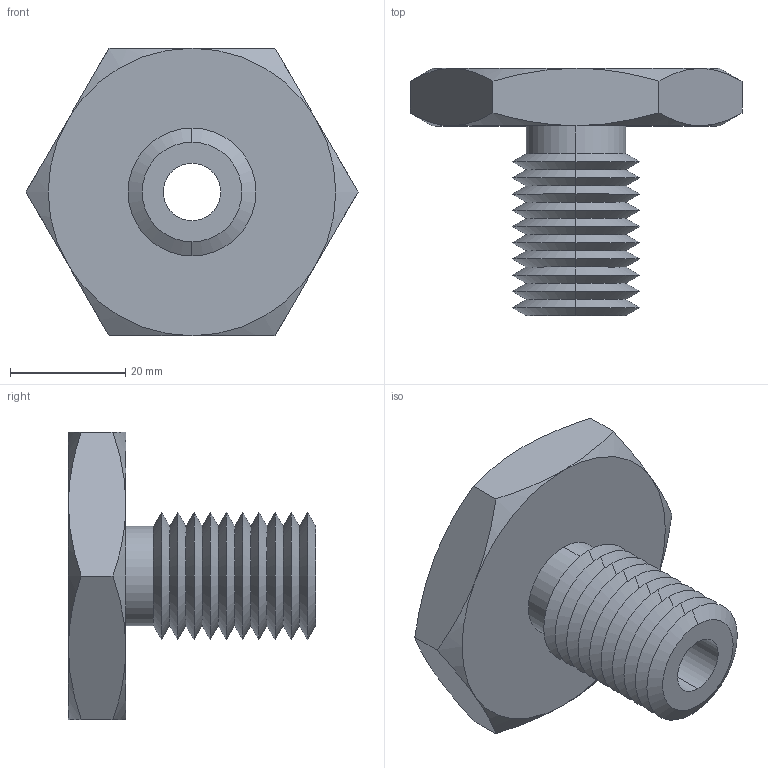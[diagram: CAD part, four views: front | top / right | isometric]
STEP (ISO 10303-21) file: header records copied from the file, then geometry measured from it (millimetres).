
FILE_DESCRIPTION (( 'STEP AP203' ), '1' );
FILE_NAME ('63302.W5088_M10x1,5.step', '2013-12-08T11:36:04', ( 'User' ), ( '' ), 'SwSTEP 2.0', 'SolidWorks 2009', '' );
FILE_SCHEMA (( 'CONFIG_CONTROL_DESIGN' ));
Length unit declared in the file: millimetre
Products named in the file (1): 63302.W5088_M10x1,5
Bounding box: 57.73 x 43 x 50 mm (x, y, z)
Volume: 27813.6 mm3; surface area: 10796 mm2
Topology: 1 solids, 1 shells, 67 faces, 138 edges, 74 vertices
Faces by surface type: cone 54, plane 9, cylinder 4
Entity records: 1939 total; most frequent: CARTESIAN_POINT 464, DIRECTION 312, ORIENTED_EDGE 276, EDGE_CURVE 138, AXIS2_PLACEMENT_3D 130, VERTEX_POINT 74, EDGE_LOOP 70, ADVANCED_FACE 67
